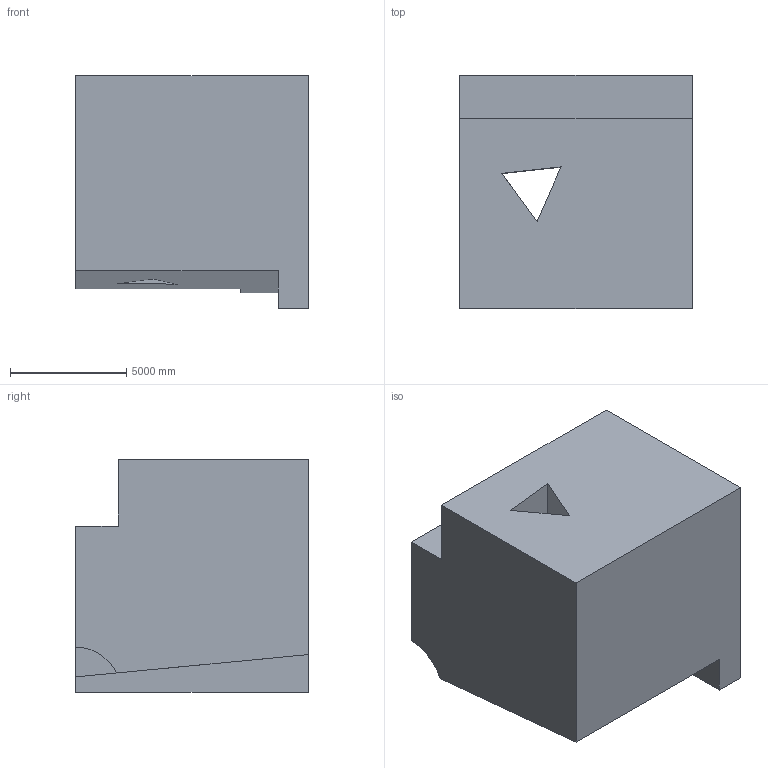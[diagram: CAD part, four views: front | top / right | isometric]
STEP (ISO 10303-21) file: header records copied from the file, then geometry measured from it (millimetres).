
FILE_DESCRIPTION (( 'STEP AP203' ), '1' );
FILE_NAME ('44.STEP', '2022-09-02T15:19:42', ( 'user' ), ( '' ), 'SwSTEP 2.0', 'SolidWorks 2021', '' );
FILE_SCHEMA (( 'CONFIG_CONTROL_DESIGN' ));
Length unit declared in the file: centimetre
Products named in the file (1): 44
Bounding box: 10000 x 10000 x 10000 mm (x, y, z)
Volume: 777412076305.8 mm3; surface area: 684267085.7 mm2
Topology: 1 solids, 1 shells, 22 faces, 57 edges, 38 vertices
Faces by surface type: plane 21, cylinder 1
Entity records: 744 total; most frequent: CARTESIAN_POINT 118, ORIENTED_EDGE 114, DIRECTION 105, EDGE_CURVE 57, LINE 55, VECTOR 55, VERTEX_POINT 38, EDGE_LOOP 25
